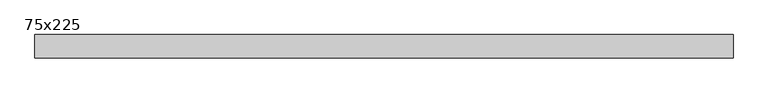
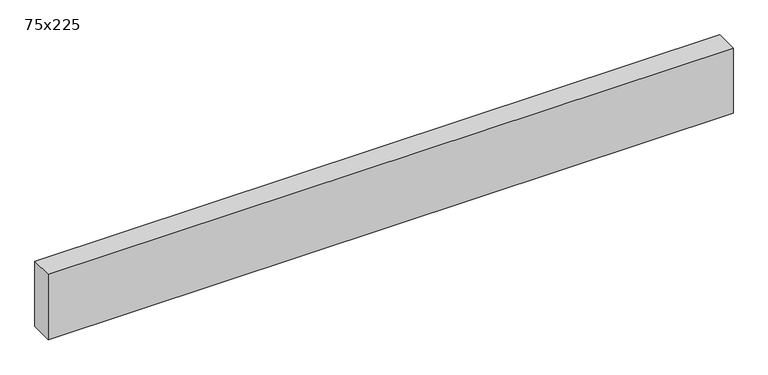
"""IFC4 building model written with IfcOpenShell, lengths in millimetres: beam geometry, Madrier : 75x225."""

from ifc_helpers import new_model, si_unit, frame, origin, place, context, project, spatial, polyline, outline, extrude, source, transform, mapped, element, save


def beam_75x225_947370aa(model_context):
    return source(origin(), model_context, "Body", "SweptSolid", [
        extrude(outline(polyline([(1117.5, 37.5), (1117.5, -37.5), (-1117.5, -37.5), (-1117.5, 37.5), (1117.5, 37.5)])), frame((0.0, 0.0, -112.5), z_axis=(0.0, 0.0, 1.0), x_axis=(1.0, 0.0, 0.0)), (0.0, 0.0, 1.0), 225.0),
    ])


if __name__ == "__main__":
    model = new_model("IFC4")
    model_context = context("Model", 3, world=origin())
    ifc_project = project(units=[si_unit("LENGTHUNIT", "METRE", prefix="MILLI")], contexts=[model_context])
    site = spatial("IfcSite", under=ifc_project)
    building = spatial("IfcBuilding", under=site)
    placement = place(None, origin())
    beam_75x225_shape = beam_75x225_947370aa(model_context)
    element("IfcBeam", 1, ObjectType="Madrier : 75x225", at=placement, inside=building, context=model_context, shape_type="MappedRepresentation", body=[
        mapped(beam_75x225_shape, transform((0.0, 0.0, 0.0), x_axis=(1.0, 0.0, 0.0), y_axis=(0.0, 1.0, 0.0), z_axis=(0.0, 0.0, 1.0))),
    ])
    save(model, "model.ifc")
